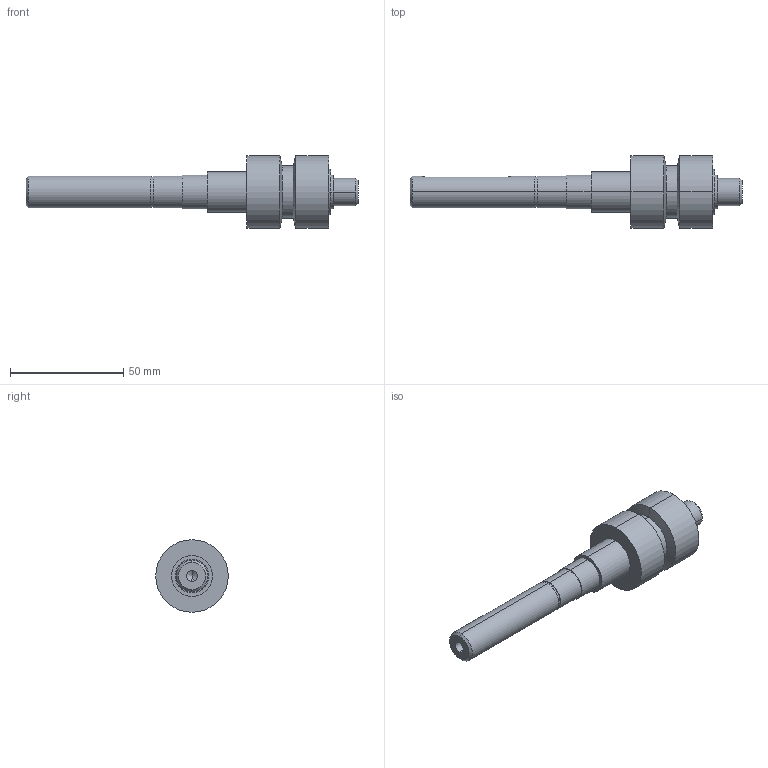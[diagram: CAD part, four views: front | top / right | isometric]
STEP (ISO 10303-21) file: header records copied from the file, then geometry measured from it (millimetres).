
FILE_DESCRIPTION (( 'STEP AP214' ), '1' );
FILE_NAME ('084.030.211.STEP', '2021-02-05T15:54:56', ( '' ), ( '' ), 'SwSTEP 2.0', 'SolidWorks 2018', '' );
FILE_SCHEMA (( 'AUTOMOTIVE_DESIGN' ));
Length unit declared in the file: millimetre
Products named in the file (1): 084.030.211
Bounding box: 146.5 x 32 x 32 mm (x, y, z)
Volume: 44322.6 mm3; surface area: 11272.4 mm2
Topology: 1 solids, 1 shells, 49 faces, 100 edges, 61 vertices
Faces by surface type: cylinder 26, plane 13, cone 10
Entity records: 1396 total; most frequent: CARTESIAN_POINT 271, DIRECTION 250, ORIENTED_EDGE 196, AXIS2_PLACEMENT_3D 104, EDGE_CURVE 98, VERTEX_POINT 61, EDGE_LOOP 59, CIRCLE 54
